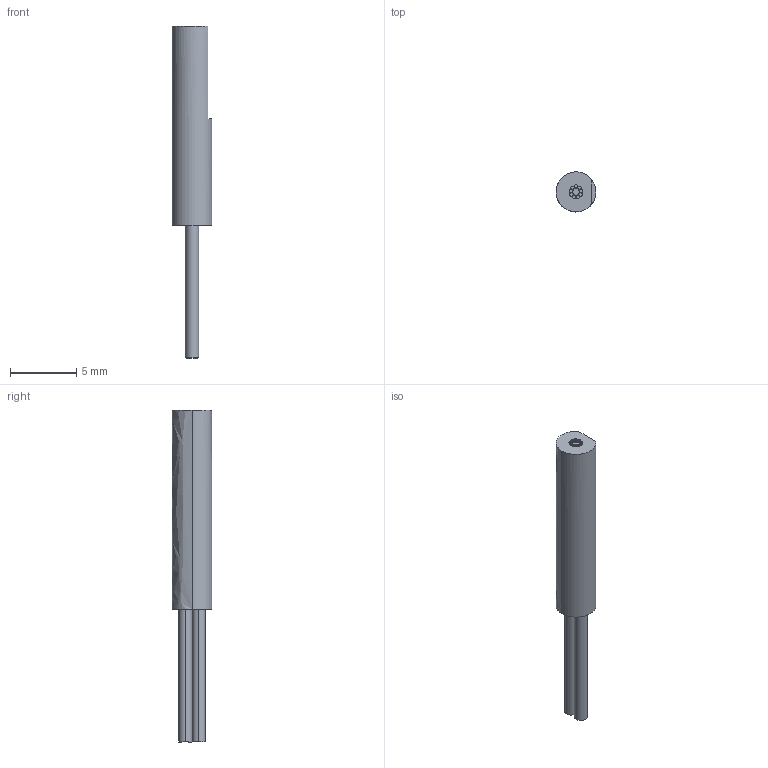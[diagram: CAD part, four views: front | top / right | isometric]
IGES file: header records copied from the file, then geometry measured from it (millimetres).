
Start section: SolidWorks IGES FILE using analytic representation for surfaces
Global section: file name: C:\Documents and Settings\yk0651\デスクトップ\3D_catalog_050904\0_IGES\FD-WSG4.IGS; native system: SolidWorks 2004 by SolidWorks Corporation; preprocessor: Version 5.3; author: yk0651; date: 050904.192851; units: millimetre
Bounding box: 3 x 3 x 25 mm (x, y, z)
Volume: 119.1 mm3; surface area: 218.3 mm2
Topology: 1 solids, 1 shells, 42 faces, 84 edges, 56 vertices
Faces by surface type: revolution 26, plane 16
